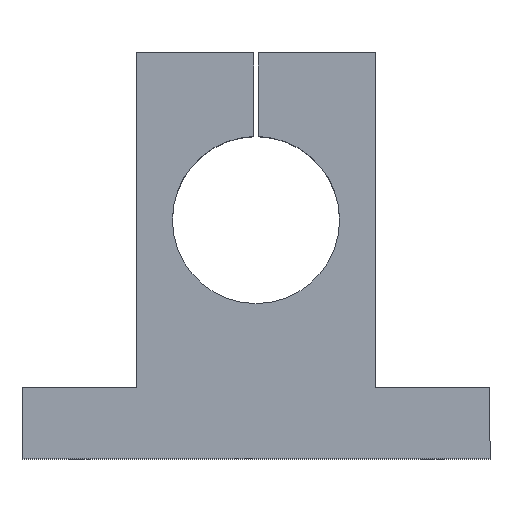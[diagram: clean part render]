
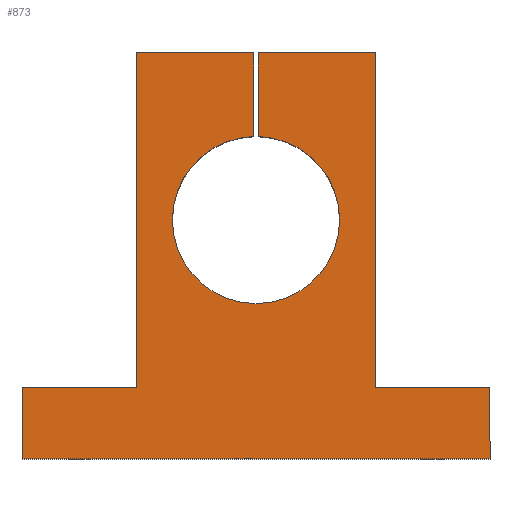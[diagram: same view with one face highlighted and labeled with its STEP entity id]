
A CAD part, top view. The second image highlights one B-rep face of the part: STEP entity #873.
In plain terms, the highlighted planar face has unit normal (0, 0, 1).
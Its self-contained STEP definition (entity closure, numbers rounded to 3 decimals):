
#51=CARTESIAN_POINT('',(66.802,47.903,32.0));
#52=VERTEX_POINT('',#51);
#59=CARTESIAN_POINT('',(49.802,65.396,32.0));
#60=VERTEX_POINT('',#59);
#61=CARTESIAN_POINT('',(49.302,47.903,32.0));
#62=DIRECTION('',(0.0,0.0,-1.0));
#63=DIRECTION('',(-1.0,0.0,0.0));
#64=AXIS2_PLACEMENT_3D('',#61,#62,#63);
#65=CIRCLE('',#64,17.5);
#66=EDGE_CURVE('',#60,#52,#65,.T.);
#91=CARTESIAN_POINT('',(31.802,47.903,32.0));
#92=VERTEX_POINT('',#91);
#101=CARTESIAN_POINT('',(49.302,47.903,32.0));
#102=DIRECTION('',(0.0,0.0,-1.0));
#103=DIRECTION('',(-1.0,0.0,0.0));
#104=AXIS2_PLACEMENT_3D('',#101,#102,#103);
#105=CIRCLE('',#104,17.5);
#106=EDGE_CURVE('',#52,#92,#105,.T.);
#590=CARTESIAN_POINT('',(48.802,65.396,32.0));
#591=VERTEX_POINT('',#590);
#606=CARTESIAN_POINT('',(48.802,82.903,32.0));
#607=VERTEX_POINT('',#606);
#614=CARTESIAN_POINT('',(48.802,65.396,32.0));
#615=DIRECTION('',(0.0,1.0,0.0));
#616=VECTOR('',#615,17.507);
#617=LINE('',#614,#616);
#618=EDGE_CURVE('',#591,#607,#617,.T.);
#633=CARTESIAN_POINT('',(49.802,82.903,32.0));
#634=VERTEX_POINT('',#633);
#635=CARTESIAN_POINT('',(49.802,82.903,32.0));
#636=DIRECTION('',(0.0,-1.0,0.0));
#637=VECTOR('',#636,17.507);
#638=LINE('',#635,#637);
#639=EDGE_CURVE('',#634,#60,#638,.T.);
#676=CARTESIAN_POINT('',(24.302,82.903,32.0));
#677=VERTEX_POINT('',#676);
#684=CARTESIAN_POINT('',(24.302,82.903,32.0));
#685=DIRECTION('',(1.0,0.0,0.0));
#686=VECTOR('',#685,24.5);
#687=LINE('',#684,#686);
#688=EDGE_CURVE('',#677,#607,#687,.T.);
#699=CARTESIAN_POINT('',(74.302,82.903,32.0));
#700=VERTEX_POINT('',#699);
#701=CARTESIAN_POINT('',(49.802,82.903,32.0));
#702=DIRECTION('',(1.0,0.0,0.0));
#703=VECTOR('',#702,24.5);
#704=LINE('',#701,#703);
#705=EDGE_CURVE('',#634,#700,#704,.T.);
#799=CARTESIAN_POINT('',(49.302,31.223,32.0));
#800=DIRECTION('',(0.0,0.0,1.0));
#801=DIRECTION('',(1.0,0.0,0.0));
#802=AXIS2_PLACEMENT_3D('',#799,#800,#801);
#803=PLANE('',#802);
#804=ORIENTED_EDGE('',*,*,#618,.T.);
#805=ORIENTED_EDGE('',*,*,#688,.F.);
#806=CARTESIAN_POINT('',(24.302,12.903,32.0));
#807=VERTEX_POINT('',#806);
#808=CARTESIAN_POINT('',(24.302,12.903,32.0));
#809=DIRECTION('',(0.0,1.0,0.0));
#810=VECTOR('',#809,70.);
#811=LINE('',#808,#810);
#812=EDGE_CURVE('',#807,#677,#811,.T.);
#813=ORIENTED_EDGE('',*,*,#812,.F.);
#814=CARTESIAN_POINT('',(0.302,12.903,32.0));
#815=VERTEX_POINT('',#814);
#816=CARTESIAN_POINT('',(0.302,12.903,32.0));
#817=DIRECTION('',(1.0,0.0,0.0));
#818=VECTOR('',#817,24.);
#819=LINE('',#816,#818);
#820=EDGE_CURVE('',#815,#807,#819,.T.);
#821=ORIENTED_EDGE('',*,*,#820,.F.);
#822=CARTESIAN_POINT('',(0.302,-2.097,32.0));
#823=VERTEX_POINT('',#822);
#824=CARTESIAN_POINT('',(0.302,-2.097,32.0));
#825=DIRECTION('',(0.0,1.0,0.0));
#826=VECTOR('',#825,15.0);
#827=LINE('',#824,#826);
#828=EDGE_CURVE('',#823,#815,#827,.T.);
#829=ORIENTED_EDGE('',*,*,#828,.F.);
#830=CARTESIAN_POINT('',(98.302,-2.097,32.0));
#831=VERTEX_POINT('',#830);
#832=CARTESIAN_POINT('',(98.302,-2.097,32.0));
#833=DIRECTION('',(-1.0,0.0,0.0));
#834=VECTOR('',#833,98.);
#835=LINE('',#832,#834);
#836=EDGE_CURVE('',#831,#823,#835,.T.);
#837=ORIENTED_EDGE('',*,*,#836,.F.);
#838=CARTESIAN_POINT('',(98.302,12.903,32.0));
#839=VERTEX_POINT('',#838);
#840=CARTESIAN_POINT('',(98.302,12.903,32.0));
#841=DIRECTION('',(0.0,-1.0,0.0));
#842=VECTOR('',#841,15.0);
#843=LINE('',#840,#842);
#844=EDGE_CURVE('',#839,#831,#843,.T.);
#845=ORIENTED_EDGE('',*,*,#844,.F.);
#846=CARTESIAN_POINT('',(74.302,12.903,32.0));
#847=VERTEX_POINT('',#846);
#848=CARTESIAN_POINT('',(74.302,12.903,32.0));
#849=DIRECTION('',(1.0,0.0,0.0));
#850=VECTOR('',#849,24.0);
#851=LINE('',#848,#850);
#852=EDGE_CURVE('',#847,#839,#851,.T.);
#853=ORIENTED_EDGE('',*,*,#852,.F.);
#854=CARTESIAN_POINT('',(74.302,82.903,32.0));
#855=DIRECTION('',(0.0,-1.0,0.0));
#856=VECTOR('',#855,70.);
#857=LINE('',#854,#856);
#858=EDGE_CURVE('',#700,#847,#857,.T.);
#859=ORIENTED_EDGE('',*,*,#858,.F.);
#860=ORIENTED_EDGE('',*,*,#705,.F.);
#861=ORIENTED_EDGE('',*,*,#639,.T.);
#862=ORIENTED_EDGE('',*,*,#66,.T.);
#863=ORIENTED_EDGE('',*,*,#106,.T.);
#864=CARTESIAN_POINT('',(49.302,47.903,32.0));
#865=DIRECTION('',(0.0,0.0,-1.0));
#866=DIRECTION('',(-1.0,0.0,0.0));
#867=AXIS2_PLACEMENT_3D('',#864,#865,#866);
#868=CIRCLE('',#867,17.5);
#869=EDGE_CURVE('',#92,#591,#868,.T.);
#870=ORIENTED_EDGE('',*,*,#869,.T.);
#871=EDGE_LOOP('',(#804,#805,#813,#821,#829,#837,#845,#853,#859,#860,#861,#862,#863,#870));
#872=FACE_OUTER_BOUND('',#871,.T.);
#873=ADVANCED_FACE('',(#872),#803,.T.);
